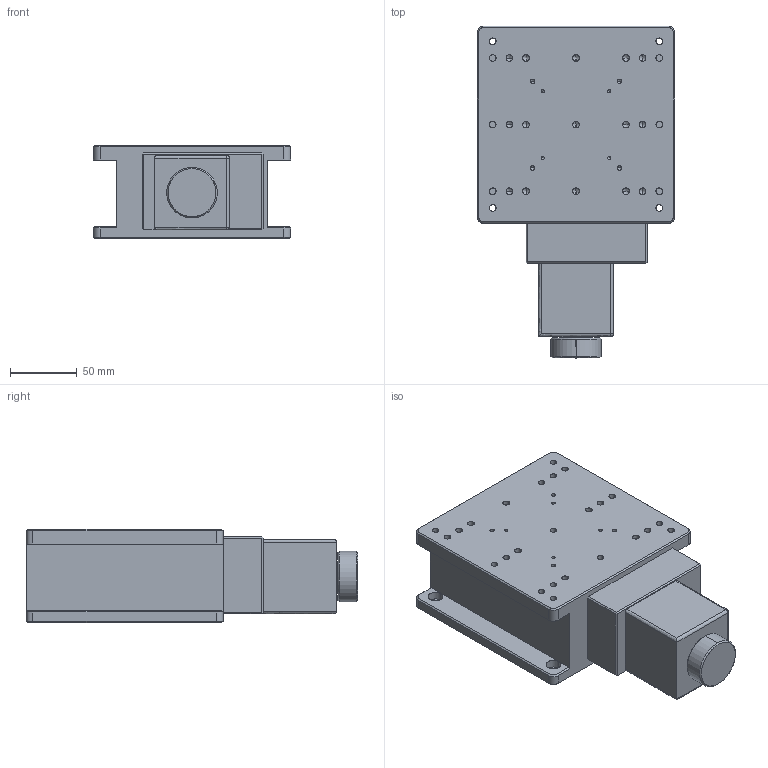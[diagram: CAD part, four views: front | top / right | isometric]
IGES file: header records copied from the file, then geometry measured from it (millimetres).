
Start section: SolidWorks IGES file using analytic representation for surfaces
Global section: file name: C:\Users\dubin\Desktop\9.18-2\萇雄汔蔥怢\PT-GD148\PT-GD148.IGS; native system: SolidWorks 2017; preprocessor: SolidWorks 2017; author: PDV; date: 220918.150713; units: millimetre
Bounding box: 148 x 249 x 70 mm (x, y, z)
Surface area: 123894.7 mm2 (no closed solid volume)
Topology: 0 solids, 0 shells, 402 faces, 5097 edges, 5049 vertices
Faces by surface type: bspline 239, revolution 163
